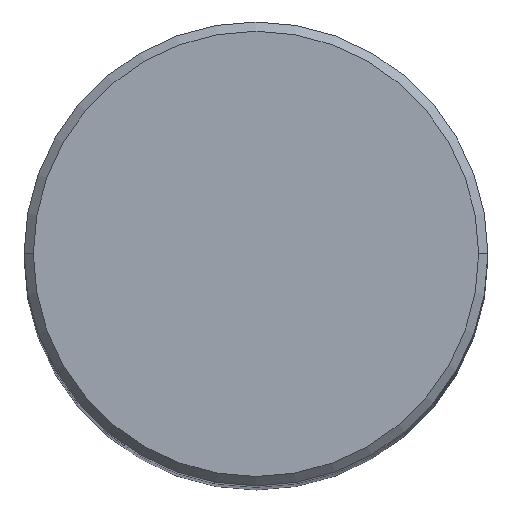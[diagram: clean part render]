
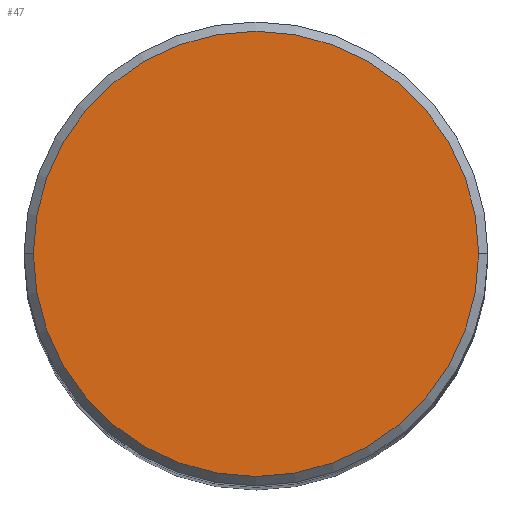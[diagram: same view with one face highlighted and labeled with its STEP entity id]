
A CAD part, top view. The second image highlights one B-rep face of the part: STEP entity #47.
In plain terms, the highlighted planar face has unit normal (0, 0, 1).
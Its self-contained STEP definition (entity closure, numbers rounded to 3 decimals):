
#47=ADVANCED_FACE('',(#94),#95,.F.);
#94=FACE_OUTER_BOUND('',#140,.T.);
#95=PLANE('',#141);
#140=EDGE_LOOP('',(#205,#206));
#141=AXIS2_PLACEMENT_3D('',#207,#208,#209);
#205=ORIENTED_EDGE('',*,*,#270,.F.);
#206=ORIENTED_EDGE('',*,*,#280,.F.);
#207=CARTESIAN_POINT('',(0.0,0.0,104.0));
#208=DIRECTION('',(0.0,0.0,-1.0));
#209=DIRECTION('',(-1.0,0.0,0.0));
#270=EDGE_CURVE('',#313,#311,#315,.T.);
#280=EDGE_CURVE('',#311,#313,#329,.T.);
#311=VERTEX_POINT('',#364);
#313=VERTEX_POINT('',#367);
#315=CIRCLE('',#370,9.6);
#329=CIRCLE('',#386,9.6);
#364=CARTESIAN_POINT('',(9.6,0.,104.0));
#367=CARTESIAN_POINT('',(-9.6,0.,104.0));
#370=AXIS2_PLACEMENT_3D('',#416,#417,#418);
#386=AXIS2_PLACEMENT_3D('',#433,#434,#435);
#416=CARTESIAN_POINT('',(0.0,0.0,104.0));
#417=DIRECTION('',(0.0,0.0,-1.0));
#418=DIRECTION('',(1.0,0.0,0.0));
#433=CARTESIAN_POINT('',(0.0,0.0,104.0));
#434=DIRECTION('',(0.0,0.0,-1.0));
#435=DIRECTION('',(1.0,0.0,0.0));
